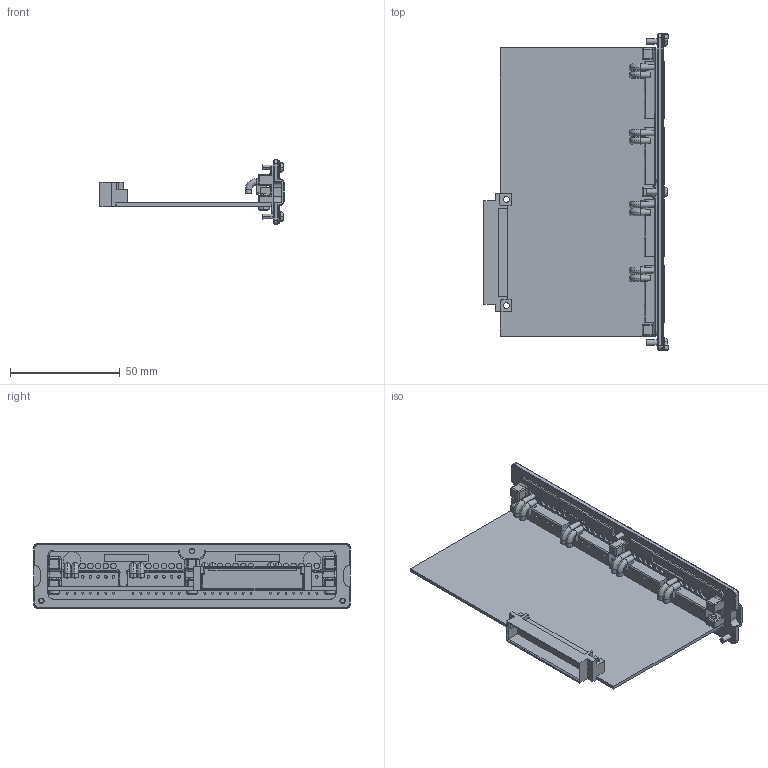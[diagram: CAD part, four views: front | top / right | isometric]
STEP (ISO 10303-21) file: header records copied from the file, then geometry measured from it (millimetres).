
FILE_DESCRIPTION((''),'2;1');
FILE_NAME('1_PX455_STEP_SW0001','2018-10-09T',('mellertr'),(''),'CREO PARAMETRIC BY PTC INC, 2017480','CREO PARAMETRIC BY PTC INC, 2017480','');
FILE_SCHEMA(('CONFIG_CONTROL_DESIGN'));
Products named in the file (1): 1_PX455_STEP_SW0001
Bounding box: 83.69 x 144 x 29.5 mm (x, y, z)
Volume: 33883.6 mm3; surface area: 40437.3 mm2
Topology: 1 solids, 2 shells, 2767 faces, 7056 edges, 4522 vertices
Faces by surface type: bspline 2767
Entity records: 120342 total; most frequent: CARTESIAN_POINT 43666, ORIENTED_EDGE 14104, DIRECTION 8380, EDGE_CURVE 7052, VECTOR 5188, LINE 5188, VERTEX_POINT 4522, EDGE_LOOP 3022
